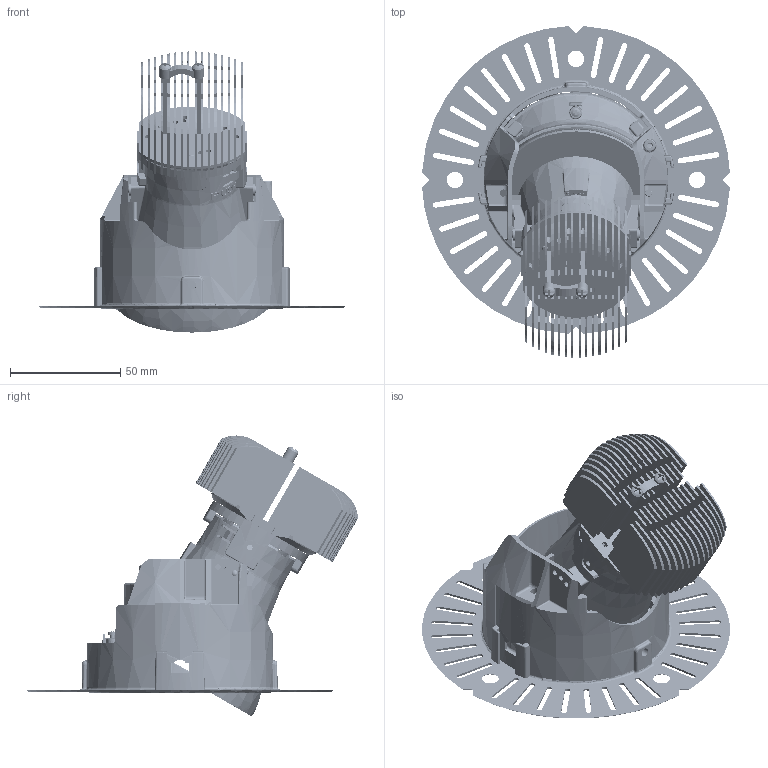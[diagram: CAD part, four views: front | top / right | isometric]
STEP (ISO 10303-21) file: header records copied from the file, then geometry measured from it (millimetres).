
FILE_DESCRIPTION(('CATIA V5 STEP Exchange'),'2;1');
FILE_NAME('C:\Users\stefano.giovinetto\Desktop\X.VP1C - M PRO Wall Washer Round Trimless Drop.stp','2020-10-29T08:16:13+00:00',('none'),('none'),'CATIA Version 5 Release 20 SP 7 (IN-10)','CATIA V5 STEP AP203','none');
FILE_SCHEMA(('CONFIG_CONTROL_DESIGN'));
Length unit declared in the file: millimetre
Products named in the file (1): 0.0000_AllCATPart
Bounding box: 139.79 x 150.85 x 127.72 mm (x, y, z)
Volume: 136775.8 mm3; surface area: 194598 mm2
Topology: 47 solids, 99 shells, 14686 faces, 42228 edges, 26051 vertices
Faces by surface type: plane 8577, cylinder 2380, sphere 2024, bspline 916, cone 403, torus 258, extrusion 124, revolution 4
Entity records: 608266 total; most frequent: CARTESIAN_POINT 257950, ORIENTED_EDGE 80073, DIRECTION 58295, EDGE_CURVE 40292, VERTEX_POINT 26049, VECTOR 25313, LINE 25189, AXIS2_PLACEMENT_3D 19356
